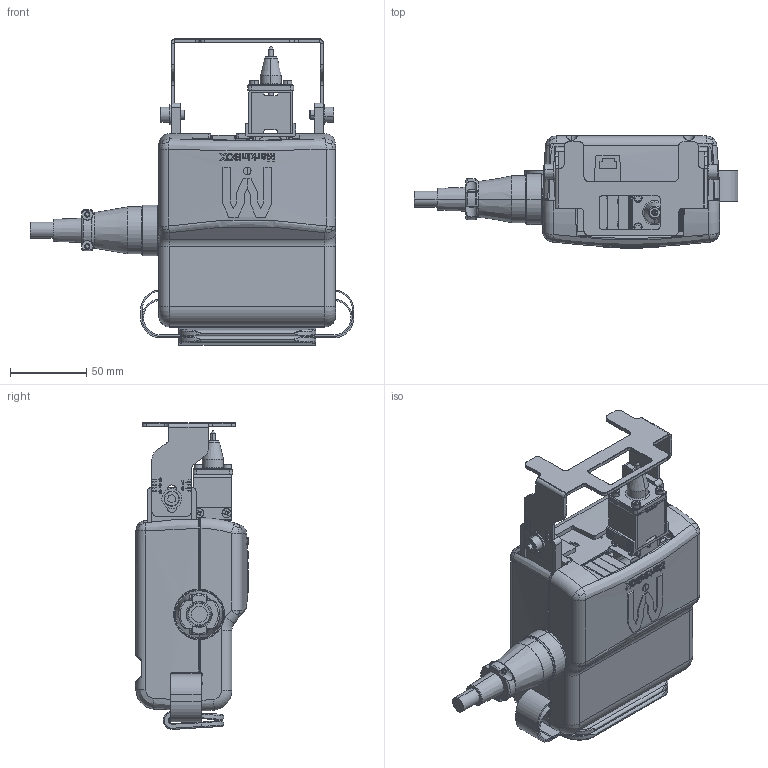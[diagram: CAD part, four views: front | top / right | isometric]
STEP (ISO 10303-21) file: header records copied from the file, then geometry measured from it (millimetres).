
FILE_DESCRIPTION (( 'STEP AP203' ), '1' );
FILE_NAME ('MB3315S v21.STEP', '2024-03-06T04:39:53', ( '' ), ( '' ), 'SwSTEP 2.0', 'SolidWorks 2019', '' );
FILE_SCHEMA (( 'CONFIG_CONTROL_DESIGN' ));
Length unit declared in the file: millimetre
Products named in the file (41): TCQ-K3-02700G-9 モールド枠捨て板1; TCQ-K3-02700G-56 v1 スイッチ基板; TCQ-K3-02700G-5 打刻ピン; TCQ-K3-01663G-23 v2 底板; SRCN6A25-24S ケーブル; TCQ-K3-01663G-25 裏面樹脂カバー; L-59EGW-CA LED儔儞僾; TCQ-K3-02700G-6 ソレノイドフレーム; cap25_4; TCQ-K3-01663G-27 v4 SUS僈僀僪; TCQ-K3-02700G-28_3 儀儖僩2; TCQ-K3-01663G-26-3 表面樹脂カバー; SRCN6A25-24S 本体; TCQ-K3-01663G-S2-2 v1 アルミフレーム; TCQ-K3-02700G-52 ソケット式ピンホルダー; TCQ-K3-02700G-28 僗僩儔僢僾1; TCQ-K3-02700G-5B ピン(超硬); TCQ-K3-02700G-10 モールド枠捨て板2; TCQ-K3-02700G-25 ナットホルダーカバー; TCQ-K3-01663G-20 戞3僔儍僢僞乕; TCQ-K3-01663G-3 v2 ナットホルダー; TCQ-K3-01663G-22 戞5僔儍僢僞乕; JF-15CKCBNP2 タクティルスイッチ; TCQ-K3-02700G-28_1 グリップ; cap3_6 SUS; MB3315S v21; sara3_5; SW25; cap25_6 SUS; cap3_6; TCQ-K3-02700G-28_2 儀儖僩1; TCQ-K3-01663G-21 戞4僔儍僢僞乕; NB3_10; SRCN6A25-24S  ストレートプラグ; TCQ-K3-01663G-28 SUSガイドすべり止めゴム; TCQ-K3-01663G-18 v2 戞1僔儍僢僞乕; capw6_10; TCQ-K3-02700G-5A ピンヘッド; SW基板 v2; TCQ-K3-01663G-19 戞2僔儍僢僞乕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
Assembly tree (60 placements, depth 3):
  MB3315S v21
    TCQ-K3-01663G-18 v2 戞1僔儍僢僞乕
    TCQ-K3-01663G-19 戞2僔儍僢僞乕
    TCQ-K3-01663G-20 戞3僔儍僢僞乕
    TCQ-K3-01663G-21 戞4僔儍僢僞乕
    TCQ-K3-01663G-22 戞5僔儍僢僞乕
    TCQ-K3-02700G-5 打刻ピン
      TCQ-K3-02700G-5A ピンヘッド
      TCQ-K3-02700G-5B ピン(超硬)
    TCQ-K3-02700G-6 ソレノイドフレーム
    TCQ-K3-02700G-7 ソレノイド取付板
    TCQ-K3-02700G-9 モールド枠捨て板1
    TCQ-K3-02700G-10 モールド枠捨て板2
    TCQ-K3-02700G-52 ソケット式ピンホルダー
    sara3_5  x4
    cap3_6 SUS  x4
    cap25_6 SUS  x4
    SW25  x4
    TCQ-K3-01663G-S2-2 v1 アルミフレーム
    TCQ-K3-01663G-3 v2 ナットホルダー
    TCQ-K3-01663G-23 v2 底板
    TCQ-K3-01663G-25 裏面樹脂カバー
    TCQ-K3-01663G-26-3 表面樹脂カバー
    TCQ-K3-01663G-27 v4 SUS僈僀僪
    TCQ-K3-01663G-28 SUSガイドすべり止めゴム
    TCQ-K3-02700G-25 ナットホルダーカバー
    TCQ-K3-02700G-28 僗僩儔僢僾1
      TCQ-K3-02700G-28_1 グリップ
      TCQ-K3-02700G-28_2 儀儖僩1
      TCQ-K3-02700G-28_3 儀儖僩2
    SW基板 v2
      TCQ-K3-02700G-56 v1 スイッチ基板
      JF-15CKCBNP2 タクティルスイッチ
      L-59EGW-CA LED儔儞僾
    SRCN6A25-24S  ストレートプラグ
      SRCN6A25-24S 本体
      SRCN6A25-24S ケーブル
      NB3_10  x2
    capw6_10  x2
    cap25_4  x4
    cap3_6  x4
Bounding box: 212.5 x 73.6 x 201.6 mm (x, y, z)
Volume: 298633.2 mm3; surface area: 280716.9 mm2
Topology: 56 solids, 57 shells, 4413 faces, 11501 edges, 7400 vertices
Faces by surface type: plane 2268, cylinder 1301, bspline 464, cone 305, torus 69, sphere 6
Entity records: 161041 total; most frequent: CARTESIAN_POINT 62378, ORIENTED_EDGE 20962, DIRECTION 16928, EDGE_CURVE 10487, VERTEX_POINT 6808, LINE 5894, VECTOR 5894, AXIS2_PLACEMENT_3D 5517
